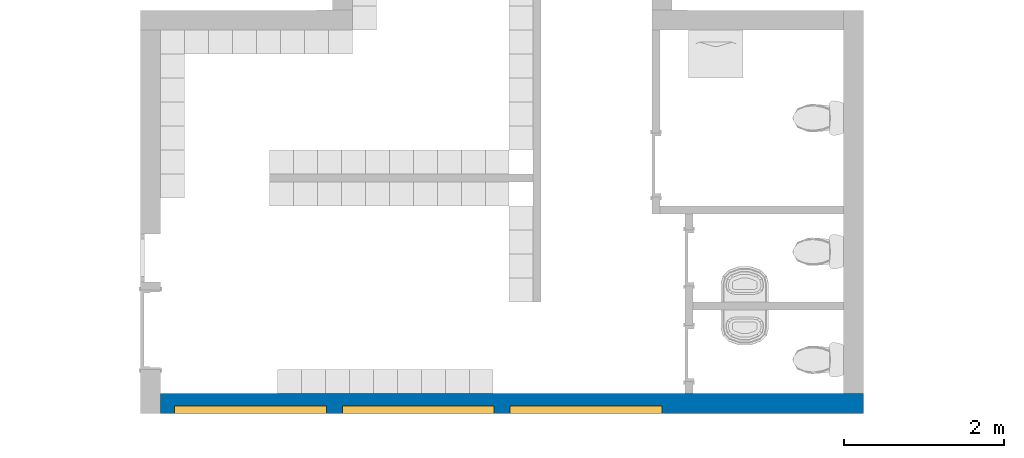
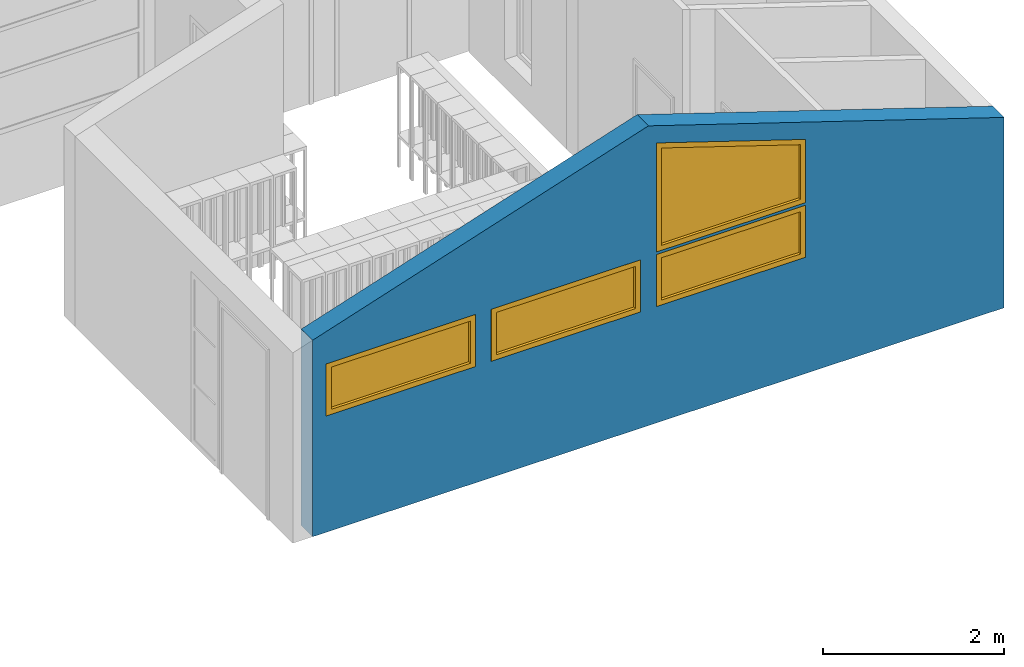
# One storey, part 12 of 25: 4 windows, 1 wall, 4 openings.
"""IFC2X3 building model written with IfcOpenShell, lengths in millimetres."""

from ifc_helpers import new_model, entity, si_unit, converted_unit, derived_unit, money_unit, direction, frame, origin_with_axes, place, context, subcontext, project, spatial, open_shell, faceted_brep, surface_model, source, transform, mapped, material, type_object, element, fill, save


model = new_model("IFC2X3")

# Units and contexts
model_context = context("Model", 3, precision=0.01, world=origin_with_axes(), true_north=direction((0.0, 1.0)))
body_context = subcontext(model_context, "Body", "Model", "MODEL_VIEW")
ifc_project = project(units=[si_unit("LENGTHUNIT", "METRE", prefix="MILLI"), si_unit("AREAUNIT", "SQUARE_METRE"), si_unit("VOLUMEUNIT", "CUBIC_METRE"), converted_unit("PLANEANGLEUNIT", "DEGREE", entity("IfcPlaneAngleMeasure", 0.0174532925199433), si_unit("PLANEANGLEUNIT", "RADIAN"), dimensions=[0, 0, 0, 0, 0, 0, 0]), money_unit("USD"), converted_unit("TIMEUNIT", "Year", entity("IfcTimeMeasure", 31557600.0), si_unit("TIMEUNIT", "SECOND"), dimensions=[0, 0, 1, 0, 0, 0, 0]), si_unit("MASSUNIT", "GRAM", prefix="KILO"), si_unit("THERMODYNAMICTEMPERATUREUNIT", "DEGREE_CELSIUS"), si_unit("LUMINOUSINTENSITYUNIT", "LUMEN"), si_unit("ENERGYUNIT", "JOULE", prefix="MEGA"), derived_unit("THERMALCONDUCTANCEUNIT", [(si_unit("POWERUNIT", "WATT"), 1), (si_unit("LENGTHUNIT", "METRE"), -1), (si_unit("THERMODYNAMICTEMPERATUREUNIT", "KELVIN"), -1)]), derived_unit("SPECIFICHEATCAPACITYUNIT", [(si_unit("ENERGYUNIT", "JOULE"), 1), (si_unit("MASSUNIT", "GRAM", prefix="KILO"), -1), (si_unit("THERMODYNAMICTEMPERATUREUNIT", "KELVIN"), -1)]), derived_unit("MASSDENSITYUNIT", [(si_unit("MASSUNIT", "GRAM", prefix="KILO"), 1), (si_unit("VOLUMEUNIT", "CUBIC_METRE"), -1)])], contexts=[model_context])

# Site, building, storey
site_placement = place(None, origin_with_axes())
site = spatial("IfcSite", under=ifc_project, at=site_placement, Name="Site", CompositionType="ELEMENT")
building_placement = place(site_placement, origin_with_axes())
building = spatial("IfcBuilding", under=site, at=building_placement, Name="Building", CompositionType="ELEMENT")
storey_placement = place(building_placement, origin_with_axes())
storey = spatial("IfcBuildingStorey", under=building, at=storey_placement, Name="U ETG", CompositionType="ELEMENT", Elevation=0.0)

# Wall, openings, windows
ifc_material = material(Name="GENERIC - INTERNAL FILLER")
wall_type = type_object("IfcWallType", Name="GENERIC - INTERNAL FILLER 250", PredefinedType="NOTDEFINED")
wall_placement = place(storey_placement, frame((61749.51265126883, 5.01256756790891, 0.0), z_axis=(0.0, 0.0, 1.0), x_axis=(0.9999999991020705, -4.237757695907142e-05, 0.0)))
wall = element("IfcWall", 1, at=wall_placement, inside=storey, type_object=wall_type, material=ifc_material, Name="SW - 001", context=body_context, shape_type="Brep", body=[
    faceted_brep([(124.9999999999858, -125.0000000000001, 0.0), (8924.999197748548, -125.000000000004, 0.0), (8924.999197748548, -125.000000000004, 2562.349190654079), (4400.288758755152, -125.0000000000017, 4032.541280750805), (124.9999999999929, -125.0000000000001, 2643.438484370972), (2199.99998205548, -125.0000000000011, 1565.018749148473), (299.999982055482, -125.0000000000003, 1565.018749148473), (299.999982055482, -125.0000000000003, 2265.018749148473), (2199.99998205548, -125.0000000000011, 2265.018749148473), (6399.99998205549, -125.0000000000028, 3150.0), (6399.99998205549, -125.0000000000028, 2300.000000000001), (4499.999982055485, -125.000000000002, 2300.000000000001), (4499.999982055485, -125.0000000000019, 3767.347422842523), (2399.99998205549, -125.000000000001, 2265.018749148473), (4299.999982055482, -125.0000000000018, 2265.018749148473), (4299.999982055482, -125.0000000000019, 1565.018749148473), (2399.99998205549, -125.0000000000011, 1565.018749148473), (4499.999982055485, -125.0000000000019, 1565.018749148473), (4499.999982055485, -125.0000000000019, 2265.018749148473), (6399.99998205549, -125.0000000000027, 2265.018749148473), (6399.99998205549, -125.0000000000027, 1565.018749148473), (8924.999232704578, 124.9999999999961, 0.0), (124.9999999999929, 125.0000000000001, 0.0), (8924.999232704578, 124.9999999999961, 2562.34573691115), (4400.278164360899, 124.9999999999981, 4032.541280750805), (125.0, 125.0000000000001, 2643.441926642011), (2199.999982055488, 124.9999999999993, 1565.018749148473), (299.999982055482, 125.0000000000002, 1565.018749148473), (299.999982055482, 125.0000000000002, 2265.018749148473), (2199.999982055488, 124.9999999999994, 2265.018749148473), (6399.99998205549, 124.9999999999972, 3150.0), (6399.99998205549, 124.9999999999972, 2300.000000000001), (4499.999982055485, 124.999999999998, 2300.000000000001), (4499.999982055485, 124.999999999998, 3767.347422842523), (4299.999982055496, 124.9999999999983, 2265.018749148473), (2399.99998205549, 124.999999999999, 2265.018749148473), (4299.999982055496, 124.9999999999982, 1565.018749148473), (2399.99998205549, 124.999999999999, 1565.018749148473), (4499.999982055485, 124.9999999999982, 1565.018749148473), (4499.999982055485, 124.9999999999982, 2265.018749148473), (6399.99998205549, 124.9999999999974, 2265.018749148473), (6399.99998205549, 124.9999999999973, 1565.018749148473)], [[[0, 1, 2, 3, 4], [5, 6, 7, 8], [9, 10, 11, 12], [13, 14, 15, 16], [17, 18, 19, 20]], [[21, 1, 0, 22]], [[21, 23, 2, 1]], [[3, 2, 23, 24]], [[3, 24, 25, 4]], [[0, 4, 25, 22]], [[5, 26, 27, 6]], [[6, 27, 28, 7]], [[7, 28, 29, 8]], [[8, 29, 26, 5]], [[10, 9, 30, 31]], [[11, 10, 31, 32]], [[12, 11, 32, 33]], [[9, 12, 33, 30]], [[34, 14, 13, 35]], [[36, 15, 14, 34]], [[37, 16, 15, 36]], [[35, 13, 16, 37]], [[38, 39, 18, 17]], [[39, 40, 19, 18]], [[40, 41, 20, 19]], [[41, 38, 17, 20]], [[23, 21, 22, 25, 24], [28, 27, 26, 29], [30, 33, 32, 31], [36, 34, 35, 37], [38, 41, 40, 39]]]),
])
opening_1_placement = place(wall_placement, frame((1249.999982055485, 0.0, 1565.018749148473), z_axis=(0.0, 0.0, 1.0), x_axis=(1.0, 0.0, 0.0)))
opening_1 = element("IfcOpeningElement", 2, at=opening_1_placement, cuts=wall, Name="WD - 001", context=body_context, shape_type="Brep", body=[
    faceted_brep([(950.0000000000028, 126.3729226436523, 700.0000000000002), (950.0000000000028, 126.3729226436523, 0.0), (-950.0000000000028, 126.3729226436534, 0.0), (-950.0000000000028, 126.3729226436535, 700.0000000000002), (949.9999999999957, -126.3729226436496, 700.0000000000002), (949.9999999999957, -126.3729226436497, 0.0), (-950.00000000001, -126.3729226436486, 0.0), (-950.00000000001, -126.3729226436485, 700.0000000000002)], [[[0, 1, 2, 3]], [[4, 5, 1, 0]], [[5, 6, 2, 1]], [[6, 7, 3, 2]], [[7, 4, 0, 3]], [[6, 5, 4, 7]]]),
])
opening_2_placement = place(wall_placement, frame((3349.999982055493, 0.0, 1565.018749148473), z_axis=(0.0, 0.0, 1.0), x_axis=(1.0, 0.0, 0.0)))
opening_2 = element("IfcOpeningElement", 3, at=opening_2_placement, cuts=wall, Name="WD - 001", context=body_context, shape_type="Brep", body=[
    faceted_brep([(949.9999999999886, 126.3729226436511, 700.0000000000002), (949.9999999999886, 126.3729226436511, 0.0), (-950.0000000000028, 126.3729226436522, 0.0), (-950.0000000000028, 126.3729226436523, 700.0000000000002), (950.0000000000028, -126.3729226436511, 700.0000000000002), (950.0000000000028, -126.3729226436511, 0.0), (-950.0000000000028, -126.37292264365, 0.0), (-950.0000000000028, -126.3729226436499, 700.0000000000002)], [[[0, 1, 2, 3]], [[4, 5, 1, 0]], [[5, 6, 2, 1]], [[6, 7, 3, 2]], [[7, 4, 0, 3]], [[6, 5, 4, 7]]]),
])
opening_3_placement = place(wall_placement, frame((5449.999982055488, 0.0, 1565.018749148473), z_axis=(0.0, 0.0, 1.0), x_axis=(1.0, 0.0, 0.0)))
opening_3 = element("IfcOpeningElement", 4, at=opening_3_placement, cuts=wall, Name="WD - 001", context=body_context, shape_type="Brep", body=[
    faceted_brep([(949.9999999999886, 126.3729226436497, 700.0000000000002), (949.9999999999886, 126.3729226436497, 0.0), (-950.0000000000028, 126.3729226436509, 0.0), (-950.0000000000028, 126.3729226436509, 700.0000000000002), (950.0000000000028, -126.3729226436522, 700.0000000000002), (950.0000000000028, -126.3729226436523, 0.0), (-950.0000000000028, -126.3729226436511, 0.0), (-950.0000000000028, -126.3729226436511, 700.0000000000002)], [[[0, 1, 2, 3]], [[4, 5, 1, 0]], [[5, 6, 2, 1]], [[6, 7, 3, 2]], [[7, 4, 0, 3]], [[6, 5, 4, 7]]]),
])
opening_4_placement = place(wall_placement, frame((5449.999982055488, 0.0, 2300.000000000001), z_axis=(0.0, 0.0, 1.0), x_axis=(1.0, 0.0, 0.0)))
opening_4 = element("IfcOpeningElement", 5, at=opening_4_placement, cuts=wall, Name="WD - 001", context=body_context, shape_type="Brep", body=[
    faceted_brep([(949.9999999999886, 126.3729226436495, 849.9999999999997), (949.9999999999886, 126.3729226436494, 0.0), (-950.0000000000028, 126.3729226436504, 0.0), (-950.0000000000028, 126.3729226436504, 1467.347422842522), (950.0000000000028, -126.3729226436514, 849.9999999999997), (950.0000000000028, -126.3729226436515, 0.0), (-950.0000000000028, -126.3729226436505, 0.0), (-950.0000000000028, -126.3729226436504, 1467.347422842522)], [[[0, 1, 2, 3]], [[4, 5, 1, 0]], [[5, 6, 2, 1]], [[6, 7, 3, 2]], [[7, 4, 0, 3]], [[6, 5, 4, 7]]]),
])
window_style_1 = type_object("IfcWindowStyle", Name="Vindu", ConstructionType="NOTDEFINED", OperationType="SINGLE_PANEL", ParameterTakesPrecedence=False, Sizeable=False)
shared_shape_1 = source(origin_with_axes(), body_context, "Body", "SurfaceModel", [
    faceted_brep([(-883.9999999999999, -92.00000000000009, 633.9999999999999), (-883.9999999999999, 0.0, 633.9999999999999), (-950.0, 0.0, 633.9999999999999), (-950.0, -92.00000000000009, 633.9999999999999), (-883.9999999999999, -92.0, 66.0), (-883.9999999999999, 0.0, 66.0), (-950.0, 0.0, 66.0), (-950.0, -92.0, 66.0)], [[[0, 1, 2, 3]], [[4, 5, 1, 0]], [[1, 5, 6, 2]], [[3, 2, 6, 7]], [[0, 3, 7, 4]], [[7, 6, 5, 4]]]),
    faceted_brep([(883.9999999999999, -92.0, 66.0), (883.9999999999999, 0.0, 66.0), (950.0, 0.0, 66.0), (950.0, -92.0, 66.0), (883.9999999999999, -92.00000000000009, 633.9999999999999), (883.9999999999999, 0.0, 633.9999999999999), (950.0, 0.0, 633.9999999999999), (950.0, -92.00000000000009, 633.9999999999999)], [[[0, 1, 2, 3]], [[4, 5, 1, 0]], [[1, 5, 6, 2]], [[3, 2, 6, 7]], [[0, 3, 7, 4]], [[7, 6, 5, 4]]]),
    faceted_brep([(-883.9999999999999, -92.0, 66.0), (-883.9999999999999, 0.0, 66.0), (-950.0, 0.0, 66.0), (-950.0, -92.0, 66.0), (883.9999999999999, -92.0, 66.0), (883.9999999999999, 0.0, 66.0), (950.0, 0.0, 66.0), (950.0, 0.0, 0.0), (-950.0, 0.0, 0.0), (-950.0, -92.0, 0.0), (950.0, -92.0, 0.0), (950.0, -92.0, 66.0)], [[[0, 1, 2, 3]], [[4, 5, 1, 0]], [[1, 5, 6, 7, 8, 2]], [[3, 2, 8, 9]], [[0, 3, 9, 10, 11, 4]], [[11, 6, 5, 4]], [[10, 7, 6, 11]], [[9, 8, 7, 10]]]),
    faceted_brep([(883.9999999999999, -92.00000000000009, 633.9999999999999), (883.9999999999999, 0.0, 633.9999999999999), (950.0, 0.0, 633.9999999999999), (950.0, -92.00000000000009, 633.9999999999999), (-883.9999999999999, -92.00000000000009, 633.9999999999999), (-883.9999999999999, 0.0, 633.9999999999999), (-950.0, 0.0, 633.9999999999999), (-950.0, 0.0, 700.0), (950.0, 0.0, 700.0), (950.0, -92.00000000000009, 700.0), (-950.0, -92.00000000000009, 700.0), (-950.0, -92.00000000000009, 633.9999999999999)], [[[0, 1, 2, 3]], [[4, 5, 1, 0]], [[1, 5, 6, 7, 8, 2]], [[3, 2, 8, 9]], [[0, 3, 9, 10, 11, 4]], [[11, 6, 5, 4]], [[10, 7, 6, 11]], [[9, 8, 7, 10]]]),
    surface_model("IfcShellBasedSurfaceModel", [(-883.9999999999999, -56.0, 66.0), (883.9999999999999, -56.0, 66.0), (883.9999999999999, -56.00000000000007, 633.9999999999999), (-883.9999999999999, -56.00000000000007, 633.9999999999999)], [open_shell([[[0, 1, 2, 3]]])]),
    surface_model("IfcShellBasedSurfaceModel", [(-883.9999999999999, -36.00000000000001, 66.0), (-883.9999999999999, -36.00000000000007, 633.9999999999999), (883.9999999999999, -36.00000000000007, 633.9999999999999), (883.9999999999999, -36.00000000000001, 66.0)], [open_shell([[[0, 1, 2, 3]]])]),
])
window_1_placement = place(opening_1_placement, frame((949.9999999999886, 0.0, 0.0), z_axis=(0.0, 0.0, 1.0), x_axis=(-1.0, 0.0, 0.0)))
window_1 = element("IfcWindow", 6, at=window_1_placement, inside=storey, type_object=window_style_1, Name="WD - 001", ObjectType="WINDOW", OverallHeight=700.0, OverallWidth=1900.0, context=body_context, shape_type="MappedRepresentation", body=[
    mapped(shared_shape_1, transform((949.9999999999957, 125.0000000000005, 0.0))),
])
fill(opening_1, window_1)
window_2_placement = place(opening_2_placement, frame((950.0000000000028, 0.0, 0.0), z_axis=(0.0, 0.0, 1.0), x_axis=(-1.0, 0.0, 0.0)))
window_2 = element("IfcWindow", 7, at=window_2_placement, inside=storey, type_object=window_style_1, Name="WD - 001", ObjectType="WINDOW", OverallHeight=700.0, OverallWidth=1900.0, context=body_context, shape_type="MappedRepresentation", body=[
    mapped(shared_shape_1, transform((950.000000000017, 125.0000000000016, 0.0))),
])
fill(opening_2, window_2)
shared_shape_2 = source(origin_with_axes(), body_context, "Body", "SurfaceModel", [
    faceted_brep([(883.9999999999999, -92.00000000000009, 633.9999999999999), (950.0, -92.00000000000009, 633.9999999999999), (950.0, 0.0, 633.9999999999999), (883.9999999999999, 0.0, 633.9999999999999), (883.9999999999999, -92.0, 66.0), (950.0, -92.0, 66.0), (950.0, 0.0, 66.0), (883.9999999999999, 0.0, 66.0)], [[[0, 1, 2, 3]], [[0, 4, 5, 1]], [[1, 5, 6, 2]], [[3, 2, 6, 7]], [[4, 0, 3, 7]], [[5, 4, 7, 6]]]),
    faceted_brep([(-883.9999999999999, -92.0, 66.0), (-950.0, -92.0, 66.0), (-950.0, 0.0, 66.0), (-883.9999999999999, 0.0, 66.0), (-883.9999999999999, -92.00000000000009, 633.9999999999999), (-950.0, -92.00000000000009, 633.9999999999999), (-950.0, 0.0, 633.9999999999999), (-883.9999999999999, 0.0, 633.9999999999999)], [[[0, 1, 2, 3]], [[0, 4, 5, 1]], [[1, 5, 6, 2]], [[3, 2, 6, 7]], [[4, 0, 3, 7]], [[5, 4, 7, 6]]]),
    faceted_brep([(883.9999999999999, -92.0, 66.0), (950.0, -92.0, 66.0), (950.0, 0.0, 66.0), (883.9999999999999, 0.0, 66.0), (-883.9999999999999, -92.0, 66.0), (-950.0, -92.0, 66.0), (-950.0, -92.0, 0.0), (950.0, -92.0, 0.0), (950.0, 0.0, 0.0), (-950.0, 0.0, 0.0), (-950.0, 0.0, 66.0), (-883.9999999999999, 0.0, 66.0)], [[[0, 1, 2, 3]], [[0, 4, 5, 6, 7, 1]], [[1, 7, 8, 2]], [[3, 2, 8, 9, 10, 11]], [[4, 0, 3, 11]], [[5, 4, 11, 10]], [[6, 5, 10, 9]], [[7, 6, 9, 8]]]),
    faceted_brep([(-883.9999999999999, -92.00000000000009, 633.9999999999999), (-950.0, -92.00000000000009, 633.9999999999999), (-950.0, 0.0, 633.9999999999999), (-883.9999999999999, 0.0, 633.9999999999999), (883.9999999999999, -92.00000000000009, 633.9999999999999), (950.0, -92.00000000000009, 633.9999999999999), (950.0, -92.00000000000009, 700.0), (-950.0, -92.00000000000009, 700.0), (-950.0, 0.0, 700.0), (950.0, 0.0, 700.0), (950.0, 0.0, 633.9999999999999), (883.9999999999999, 0.0, 633.9999999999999)], [[[0, 1, 2, 3]], [[0, 4, 5, 6, 7, 1]], [[1, 7, 8, 2]], [[3, 2, 8, 9, 10, 11]], [[4, 0, 3, 11]], [[5, 4, 11, 10]], [[6, 5, 10, 9]], [[7, 6, 9, 8]]]),
    surface_model("IfcShellBasedSurfaceModel", [(883.9999999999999, -56.0, 66.0), (883.9999999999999, -56.00000000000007, 633.9999999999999), (-883.9999999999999, -56.00000000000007, 633.9999999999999), (-883.9999999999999, -56.0, 66.0)], [open_shell([[[0, 1, 2, 3]]])]),
    surface_model("IfcShellBasedSurfaceModel", [(883.9999999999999, -36.00000000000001, 66.0), (-883.9999999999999, -36.00000000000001, 66.0), (-883.9999999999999, -36.00000000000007, 633.9999999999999), (883.9999999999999, -36.00000000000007, 633.9999999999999)], [open_shell([[[0, 1, 2, 3]]])]),
])
window_3_placement = place(opening_3_placement, frame((949.9999999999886, 0.0, 0.0), z_axis=(0.0, 0.0, 1.0), x_axis=(-1.0, 0.0, 0.0)))
window_3 = element("IfcWindow", 8, at=window_3_placement, inside=storey, type_object=window_style_1, Name="WD - 001", ObjectType="WINDOW", OverallHeight=700.0, OverallWidth=1900.0, context=body_context, shape_type="MappedRepresentation", body=[
    mapped(shared_shape_2, transform((950.0000000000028, 125.0000000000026, 0.0))),
])
fill(opening_3, window_3)
window_style_2 = type_object("IfcWindowStyle", Name="Vindu med skrå topp", ConstructionType="NOTDEFINED", OperationType="USERDEFINED", ParameterTakesPrecedence=False, Sizeable=False)
window_4_placement = place(opening_4_placement, frame((-950.0000000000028, 0.0, 0.0), z_axis=(0.0, 0.0, 1.0), x_axis=(1.0, 0.0, 0.0)))
window_4 = element("IfcWindow", 9, at=window_4_placement, inside=storey, type_object=window_style_2, Name="WD - 001", ObjectType="WINDOW", OverallHeight=1467.35, OverallWidth=1900.0, context=body_context, shape_type="SurfaceModel", body=[
    faceted_brep([(65.99999999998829, -125.0000000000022, 1376.506216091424), (66.0000000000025, -33.00000000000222, 1376.506216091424), (0.0, -33.00000000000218, 1376.506216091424), (0.0, -125.0000000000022, 1376.506216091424), (65.99999999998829, -125.0000000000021, 65.99999999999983), (66.0000000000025, -33.00000000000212, 65.99999999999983), (0.0, -33.0000000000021, 65.99999999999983), (0.0, -125.0000000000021, 65.99999999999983)], [[[0, 1, 2, 3]], [[4, 5, 1, 0]], [[1, 5, 6, 2]], [[3, 2, 6, 7]], [[0, 3, 7, 4]], [[7, 6, 5, 4]]]),
    faceted_brep([(1834.000000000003, -125.000000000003, 65.99999999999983), (1834.000000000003, -33.00000000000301, 65.99999999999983), (1899.999999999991, -33.00000000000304, 65.99999999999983), (1900.000000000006, -125.0000000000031, 65.99999999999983), (1834.000000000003, -125.0000000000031, 802.0481931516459), (1834.000000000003, -33.00000000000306, 802.0481931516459), (1899.999999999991, -33.00000000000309, 802.0481931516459), (1900.000000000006, -125.0000000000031, 802.0481931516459)], [[[0, 1, 2, 3]], [[4, 5, 1, 0]], [[1, 5, 6, 2]], [[3, 2, 6, 7]], [[0, 3, 7, 4]], [[7, 6, 5, 4]]]),
    faceted_brep([(0.0, -125.0000000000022, 1467.347422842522), (0.0, -33.00000000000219, 1467.347422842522), (0.0, -33.00000000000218, 1376.506216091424), (0.0, -125.0000000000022, 1376.506216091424), (1900.000000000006, -125.0000000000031, 850.0000000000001), (1899.999999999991, -33.00000000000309, 850.0000000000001), (1899.999999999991, -33.00000000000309, 802.0481931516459), (1834.000000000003, -33.00000000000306, 802.0481931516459), (66.0000000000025, -33.00000000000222, 1376.506216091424), (65.99999999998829, -125.0000000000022, 1376.506216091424), (1834.000000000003, -125.0000000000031, 802.0481931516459), (1900.000000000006, -125.0000000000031, 802.0481931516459)], [[[0, 1, 2, 3]], [[4, 5, 1, 0]], [[1, 5, 6, 7, 8, 2]], [[3, 2, 8, 9]], [[0, 3, 9, 10, 11, 4]], [[11, 6, 5, 4]], [[10, 7, 6, 11]], [[9, 8, 7, 10]]]),
    faceted_brep([(1900.000000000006, -125.0000000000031, 0.0), (1899.999999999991, -33.00000000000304, 0.0), (1899.999999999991, -33.00000000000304, 65.99999999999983), (1900.000000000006, -125.0000000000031, 65.99999999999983), (0.0, -125.0000000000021, 0.0), (0.0, -33.0000000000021, 0.0), (0.0, -33.0000000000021, 65.99999999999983), (66.0000000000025, -33.00000000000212, 65.99999999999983), (1834.000000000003, -33.00000000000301, 65.99999999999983), (1834.000000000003, -125.000000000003, 65.99999999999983), (65.99999999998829, -125.0000000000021, 65.99999999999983), (0.0, -125.0000000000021, 65.99999999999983)], [[[0, 1, 2, 3]], [[4, 5, 1, 0]], [[1, 5, 6, 7, 8, 2]], [[3, 2, 8, 9]], [[0, 3, 9, 10, 11, 4]], [[11, 6, 5, 4]], [[10, 7, 6, 11]], [[9, 8, 7, 10]]]),
    surface_model("IfcShellBasedSurfaceModel", [(66.0000000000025, -89.00000000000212, 65.99999999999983), (1834.000000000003, -89.000000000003, 65.99999999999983), (1834.000000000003, -89.00000000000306, 802.0481931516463), (66.0000000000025, -89.0000000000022, 1376.506216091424)], [open_shell([[[0, 1, 2, 3]]])]),
    surface_model("IfcShellBasedSurfaceModel", [(66.0000000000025, -69.00000000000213, 65.99999999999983), (66.0000000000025, -69.0000000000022, 1376.506216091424), (1834.000000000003, -69.00000000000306, 802.0481931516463), (1834.000000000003, -69.00000000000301, 65.99999999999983)], [open_shell([[[0, 1, 2, 3]]])]),
])
fill(opening_4, window_4)

save(model, "model.ifc")
